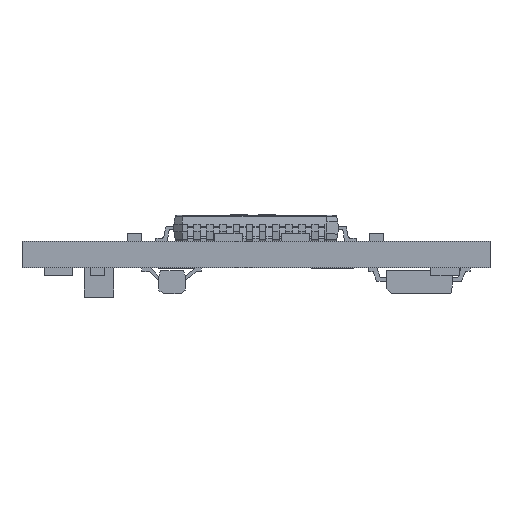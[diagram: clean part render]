
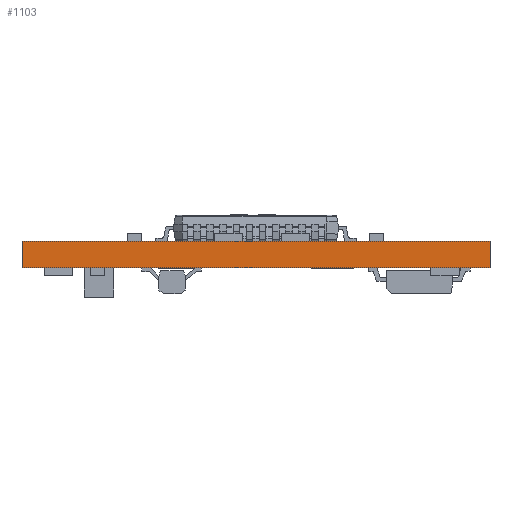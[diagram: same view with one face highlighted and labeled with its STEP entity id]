
A CAD part, left-side view. The second image highlights one B-rep face of the part: STEP entity #1103.
In plain terms, the highlighted planar face has unit normal (-1, 0, 0).
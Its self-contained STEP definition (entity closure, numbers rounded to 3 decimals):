
#1103 = ADVANCED_FACE ( 'NONE', ( #3658 ), #41104, .F. ) ;
#3511 = VERTEX_POINT ( 'NONE', #30921 ) ;
#3658 = FACE_OUTER_BOUND ( 'NONE', #21010, .T. ) ;
#4673 = LINE ( 'NONE', #31136, #20994 ) ;
#5129 = DIRECTION ( 'NONE',  ( 0., 1., 0. ) ) ;
#5973 = EDGE_CURVE ( 'NONE', #21674, #3511, #4673, .T. ) ;
#6327 = LINE ( 'NONE', #34646, #16061 ) ;
#9460 = AXIS2_PLACEMENT_3D ( 'NONE', #31156, #28765, #28336 ) ;
#11677 = CARTESIAN_POINT ( 'NONE',  ( -9.25, 19.252, -1.6 ) ) ;
#11887 = ORIENTED_EDGE ( 'NONE', *, *, #18711, .T. ) ;
#15186 = DIRECTION ( 'NONE',  ( 0., 0., 1. ) ) ;
#16061 = VECTOR ( 'NONE', #15186, 1000. ) ;
#16135 = ORIENTED_EDGE ( 'NONE', *, *, #30954, .F. ) ;
#17811 = CARTESIAN_POINT ( 'NONE',  ( -9.25, -9.248, -1.6 ) ) ;
#18652 = EDGE_CURVE ( 'NONE', #38553, #3511, #6327, .T. ) ;
#18711 = EDGE_CURVE ( 'NONE', #19311, #21674, #21636, .T. ) ;
#19311 = VERTEX_POINT ( 'NONE', #17811 ) ;
#20994 = VECTOR ( 'NONE', #5129, 1000. ) ;
#21010 = EDGE_LOOP ( 'NONE', ( #22801, #33682, #16135, #11887 ) ) ;
#21636 = LINE ( 'NONE', #25161, #37867 ) ;
#21641 = DIRECTION ( 'NONE',  ( 0., 1., 0. ) ) ;
#21674 = VERTEX_POINT ( 'NONE', #41165 ) ;
#22801 = ORIENTED_EDGE ( 'NONE', *, *, #5973, .T. ) ;
#25161 = CARTESIAN_POINT ( 'NONE',  ( -9.25, -9.248, -1.6 ) ) ;
#26239 = CARTESIAN_POINT ( 'NONE',  ( -9.25, 19.252, -1.6 ) ) ;
#28336 = DIRECTION ( 'NONE',  ( 0., 0., -1. ) ) ;
#28393 = DIRECTION ( 'NONE',  ( 0., 0., 1. ) ) ;
#28765 = DIRECTION ( 'NONE',  ( 1., 0., 0. ) ) ;
#30921 = CARTESIAN_POINT ( 'NONE',  ( -9.25, 19.252, 0. ) ) ;
#30954 = EDGE_CURVE ( 'NONE', #19311, #38553, #31942, .T. ) ;
#31136 = CARTESIAN_POINT ( 'NONE',  ( -9.25, 19.252, 0. ) ) ;
#31156 = CARTESIAN_POINT ( 'NONE',  ( -9.25, 19.252, -1.6 ) ) ;
#31942 = LINE ( 'NONE', #11677, #33974 ) ;
#33682 = ORIENTED_EDGE ( 'NONE', *, *, #18652, .F. ) ;
#33974 = VECTOR ( 'NONE', #21641, 1000. ) ;
#34646 = CARTESIAN_POINT ( 'NONE',  ( -9.25, 19.252, -1.6 ) ) ;
#37867 = VECTOR ( 'NONE', #28393, 1000. ) ;
#38553 = VERTEX_POINT ( 'NONE', #26239 ) ;
#41104 = PLANE ( 'NONE',  #9460 ) ;
#41165 = CARTESIAN_POINT ( 'NONE',  ( -9.25, -9.248, 0. ) ) ;
